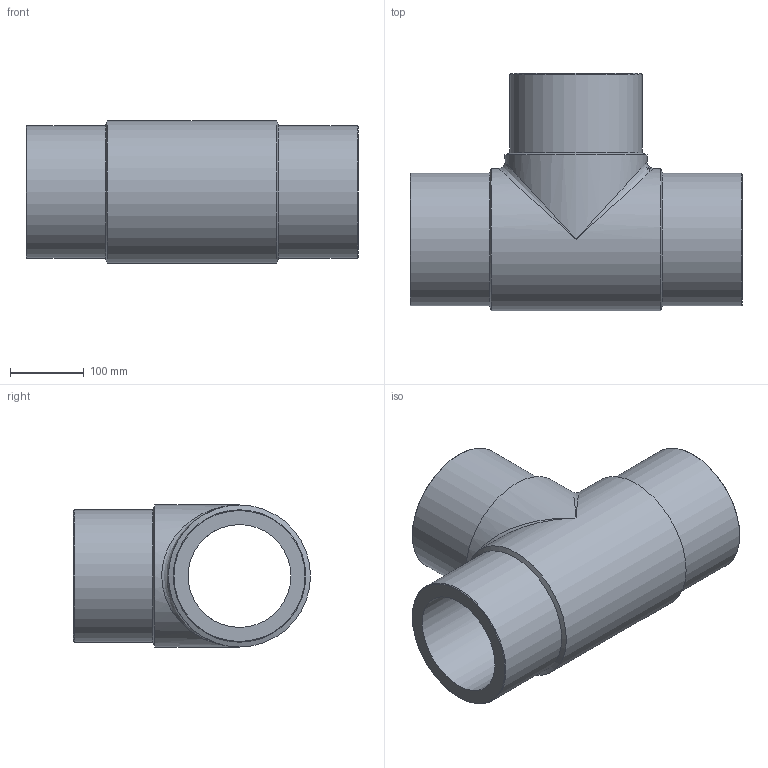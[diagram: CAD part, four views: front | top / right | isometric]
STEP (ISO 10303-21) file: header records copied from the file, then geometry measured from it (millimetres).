
FILE_DESCRIPTION(/* description */ ('Unknown'),/* implementation_level */ '2;1');
FILE_NAME(/* name */ 'TP180G',/* time_stamp */ '2021-08-04T16:50:37+02:00',/* author */ ('Unknown'),/* organization */ ('Unknown'),/* preprocessor_version */ 'ST-DEVELOPER v16.7',/* originating_system */ 'Solid Edge',/* authorisation */ 'Unknown');
FILE_SCHEMA (('AUTOMOTIVE_DESIGN {1 0 10303 214 3 1 1}'));
Length unit declared in the file: millimetre
Products named in the file (1): TP180G
Bounding box: 451 x 322 x 193 mm (x, y, z)
Volume: 6676444.3 mm3; surface area: 616576.3 mm2
Topology: 1 solids, 1 shells, 18 faces, 44 edges, 23 vertices
Faces by surface type: cylinder 7, cone 6, plane 3, bspline 2
Full cylindrical faces by diameter (mm): 139.8 x2, 180 x3, 193 x2
Entity records: 528 total; most frequent: CARTESIAN_POINT 171, DIRECTION 76, ORIENTED_EDGE 42, AXIS2_PLACEMENT_3D 38, EDGE_LOOP 36, FACE_BOUND 36, EDGE_CURVE 21, VERTEX_POINT 19
